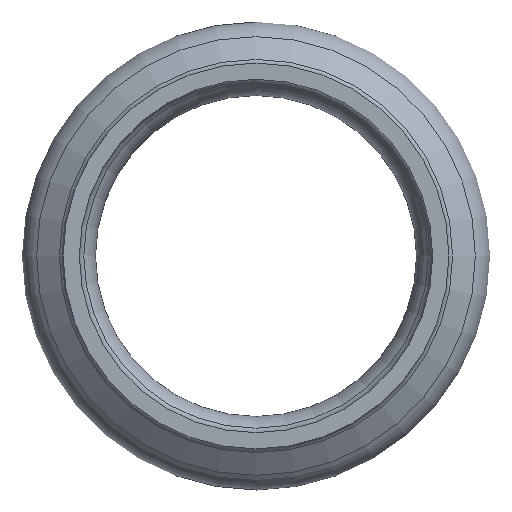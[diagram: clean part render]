
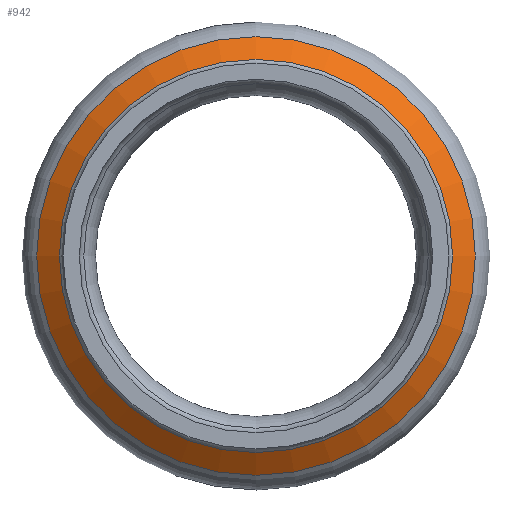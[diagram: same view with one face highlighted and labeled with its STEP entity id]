
A CAD part, left-side view. The second image highlights one B-rep face of the part: STEP entity #942.
In plain terms, the highlighted conical face has half-angle 53.808 degrees and reference radius 35.497 mm.
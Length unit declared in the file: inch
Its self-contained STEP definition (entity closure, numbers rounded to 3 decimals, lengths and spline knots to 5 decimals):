
#59=LINE('',#1597,#77);
#77=VECTOR('',#1210,1.39753);
#95=CONICAL_SURFACE('',#1009,1.39753,0.939);
#104=FACE_OUTER_BOUND('',#144,.T.);
#144=EDGE_LOOP('',(#587,#588,#589,#590,#591,#592,#593,#594));
#187=CIRCLE('',#1004,1.32107);
#188=CIRCLE('',#1005,1.32107);
#189=CIRCLE('',#1006,1.32107);
#192=CIRCLE('',#1010,1.47399);
#193=CIRCLE('',#1011,1.47399);
#194=CIRCLE('',#1012,1.47399);
#319=VERTEX_POINT('',#1581);
#320=VERTEX_POINT('',#1583);
#321=VERTEX_POINT('',#1585);
#323=VERTEX_POINT('',#1592);
#324=VERTEX_POINT('',#1593);
#325=VERTEX_POINT('',#1595);
#431=EDGE_CURVE('',#320,#319,#187,.T.);
#432=EDGE_CURVE('',#321,#320,#188,.T.);
#433=EDGE_CURVE('',#319,#321,#189,.T.);
#436=EDGE_CURVE('',#323,#324,#192,.T.);
#437=EDGE_CURVE('',#325,#323,#193,.T.);
#438=EDGE_CURVE('',#325,#321,#59,.T.);
#439=EDGE_CURVE('',#324,#325,#194,.T.);
#587=ORIENTED_EDGE('',*,*,#436,.F.);
#588=ORIENTED_EDGE('',*,*,#437,.F.);
#589=ORIENTED_EDGE('',*,*,#438,.T.);
#590=ORIENTED_EDGE('',*,*,#432,.T.);
#591=ORIENTED_EDGE('',*,*,#431,.T.);
#592=ORIENTED_EDGE('',*,*,#433,.T.);
#593=ORIENTED_EDGE('',*,*,#438,.F.);
#594=ORIENTED_EDGE('',*,*,#439,.F.);
#942=ADVANCED_FACE('',(#104),#95,.T.);
#1004=AXIS2_PLACEMENT_3D('',#1584,#1194,#1195);
#1005=AXIS2_PLACEMENT_3D('',#1586,#1196,#1197);
#1006=AXIS2_PLACEMENT_3D('',#1587,#1198,#1199);
#1009=AXIS2_PLACEMENT_3D('',#1591,#1204,#1205);
#1010=AXIS2_PLACEMENT_3D('',#1594,#1206,#1207);
#1011=AXIS2_PLACEMENT_3D('',#1596,#1208,#1209);
#1012=AXIS2_PLACEMENT_3D('',#1598,#1211,#1212);
#1194=DIRECTION('center_axis',(1.,0.,0.));
#1195=DIRECTION('ref_axis',(0.,1.,0.));
#1196=DIRECTION('center_axis',(1.,0.,0.));
#1197=DIRECTION('ref_axis',(0.,1.,0.));
#1198=DIRECTION('center_axis',(1.,0.,0.));
#1199=DIRECTION('ref_axis',(0.,1.,0.));
#1204=DIRECTION('center_axis',(1.,0.,0.));
#1205=DIRECTION('ref_axis',(0.,1.,0.));
#1206=DIRECTION('center_axis',(1.,0.,0.));
#1207=DIRECTION('ref_axis',(0.,1.,0.));
#1208=DIRECTION('center_axis',(1.,0.,0.));
#1209=DIRECTION('ref_axis',(0.,1.,0.));
#1210=DIRECTION('',(-0.59,0.807,0.));
#1211=DIRECTION('center_axis',(1.,0.,0.));
#1212=DIRECTION('ref_axis',(0.,1.,0.));
#1581=CARTESIAN_POINT('',(-1.641,0.,1.32107));
#1583=CARTESIAN_POINT('',(-1.641,1.32107,0.));
#1584=CARTESIAN_POINT('Origin',(-1.641,0.,0.));
#1585=CARTESIAN_POINT('',(-1.641,-1.32107,0.));
#1586=CARTESIAN_POINT('Origin',(-1.641,0.,0.));
#1587=CARTESIAN_POINT('Origin',(-1.641,0.,0.));
#1591=CARTESIAN_POINT('Origin',(-1.58506,0.,
0.));
#1592=CARTESIAN_POINT('',(-1.52911,1.47399,0.));
#1593=CARTESIAN_POINT('',(-1.52911,0.,1.47399));
#1594=CARTESIAN_POINT('Origin',(-1.52911,0.,
0.));
#1595=CARTESIAN_POINT('',(-1.52911,-1.47399,0.));
#1596=CARTESIAN_POINT('Origin',(-1.52911,0.,
0.));
#1597=CARTESIAN_POINT('',(-1.58506,-1.39753,0.));
#1598=CARTESIAN_POINT('Origin',(-1.52911,0.,
0.));
